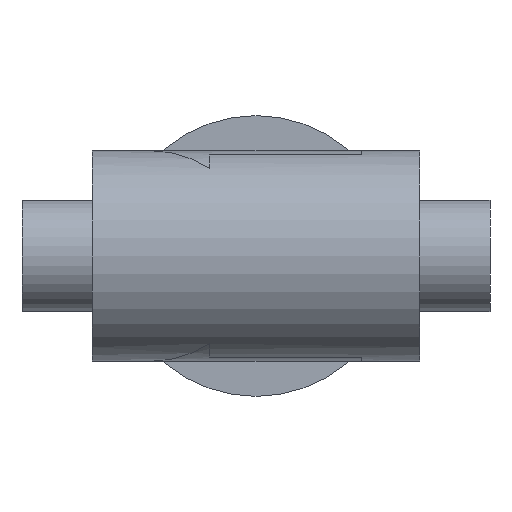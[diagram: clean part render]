
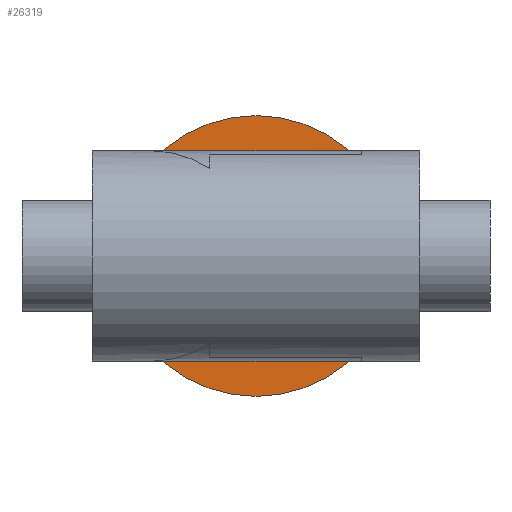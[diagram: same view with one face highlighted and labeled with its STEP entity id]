
A CAD part, front view. The second image highlights one B-rep face of the part: STEP entity #26319.
In plain terms, the highlighted planar face has unit normal (0, -1, 0).
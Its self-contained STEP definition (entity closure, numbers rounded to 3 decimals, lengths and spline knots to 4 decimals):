
#711 = DIRECTION ( 'NONE',  ( 0., -1., 0. ) ) ;
#2776 = FACE_BOUND ( 'NONE', #6992, .T. ) ;
#3033 = FACE_OUTER_BOUND ( 'NONE', #22999, .T. ) ;
#3534 = CARTESIAN_POINT ( 'NONE',  ( 0., 21.8, 0. ) ) ;
#3780 = DIRECTION ( 'NONE',  ( 0., 0., -1. ) ) ;
#6992 = EDGE_LOOP ( 'NONE', ( #15050 ) ) ;
#11996 = AXIS2_PLACEMENT_3D ( 'NONE', #3534, #711, #3780 ) ;
#12188 = CARTESIAN_POINT ( 'NONE',  ( 0., 21.8, -3. ) ) ;
#12938 = VERTEX_POINT ( 'NONE', #12188 ) ;
#13340 = DIRECTION ( 'NONE',  ( 0., 0., -1. ) ) ;
#14089 = CARTESIAN_POINT ( 'NONE',  ( 0., 21.8, 0. ) ) ;
#15050 = ORIENTED_EDGE ( 'NONE', *, *, #45787, .F. ) ;
#18257 = PLANE ( 'NONE',  #35088 ) ;
#22999 = EDGE_LOOP ( 'NONE', ( #32677 ) ) ;
#26319 = ADVANCED_FACE ( 'NONE', ( #2776, #3033 ), #18257, .F. ) ;
#27939 = VERTEX_POINT ( 'NONE', #35799 ) ;
#29965 = DIRECTION ( 'NONE',  ( 0., 1., 0. ) ) ;
#32677 = ORIENTED_EDGE ( 'NONE', *, *, #36113, .T. ) ;
#33269 = DIRECTION ( 'NONE',  ( 0., 0., 1. ) ) ;
#33946 = CIRCLE ( 'NONE', #11996, 3. ) ;
#35088 = AXIS2_PLACEMENT_3D ( 'NONE', #49224, #29965, #33269 ) ;
#35799 = CARTESIAN_POINT ( 'NONE',  ( 0., 21.8, -0.1875 ) ) ;
#36113 = EDGE_CURVE ( 'NONE', #12938, #12938, #33946, .T. ) ;
#36702 = DIRECTION ( 'NONE',  ( 0., -1., 0. ) ) ;
#42786 = CIRCLE ( 'NONE', #49278, 0.1875 ) ;
#45787 = EDGE_CURVE ( 'NONE', #27939, #27939, #42786, .T. ) ;
#49224 = CARTESIAN_POINT ( 'NONE',  ( -3., 21.8, 0. ) ) ;
#49278 = AXIS2_PLACEMENT_3D ( 'NONE', #14089, #36702, #13340 ) ;
